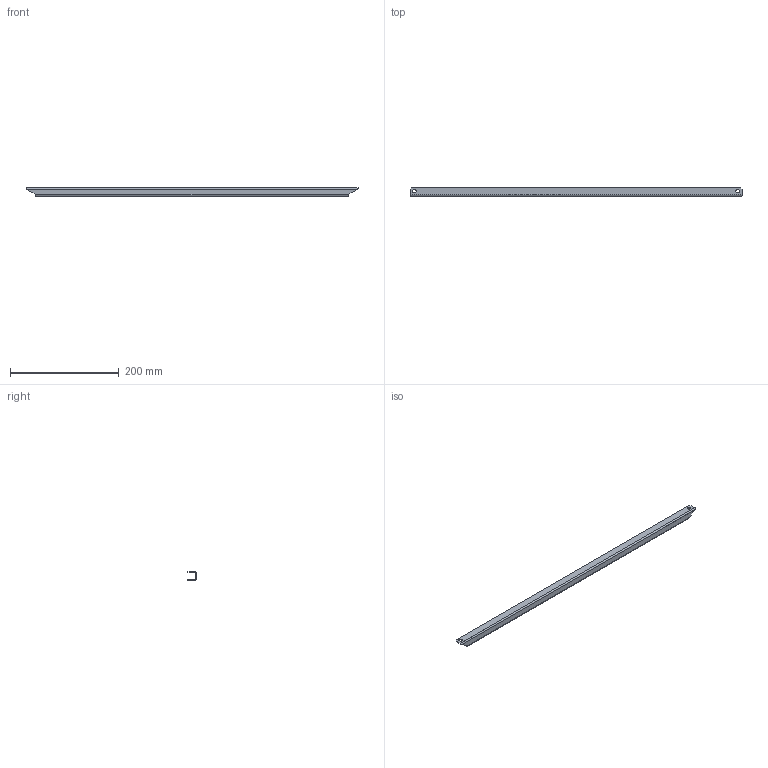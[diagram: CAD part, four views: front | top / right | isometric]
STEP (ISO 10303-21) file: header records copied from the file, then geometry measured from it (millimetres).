
FILE_DESCRIPTION (( 'STEP AP203' ), '1' );
FILE_NAME ('VB 70 Ðåéêà.STEP', '2012-11-15T06:56:54', ( 'Àëåêñàíäð' ), ( 'Ïðîâåíòî' ), 'SwSTEP 2.0', 'SolidWorks 2012', '' );
FILE_SCHEMA (( 'CONFIG_CONTROL_DESIGN' ));
Length unit declared in the file: millimetre
Products named in the file (1): VB 70 Ðåéêà
Bounding box: 610 x 15 x 15.5 mm (x, y, z)
Volume: 29070.1 mm3; surface area: 50383.1 mm2
Topology: 1 solids, 1 shells, 76 faces, 222 edges, 148 vertices
Faces by surface type: cylinder 58, plane 18
Entity records: 2787 total; most frequent: DIRECTION 488, CARTESIAN_POINT 483, ORIENTED_EDGE 444, EDGE_CURVE 222, AXIS2_PLACEMENT_3D 193, VERTEX_POINT 148, EDGE_LOOP 126, CIRCLE 116
